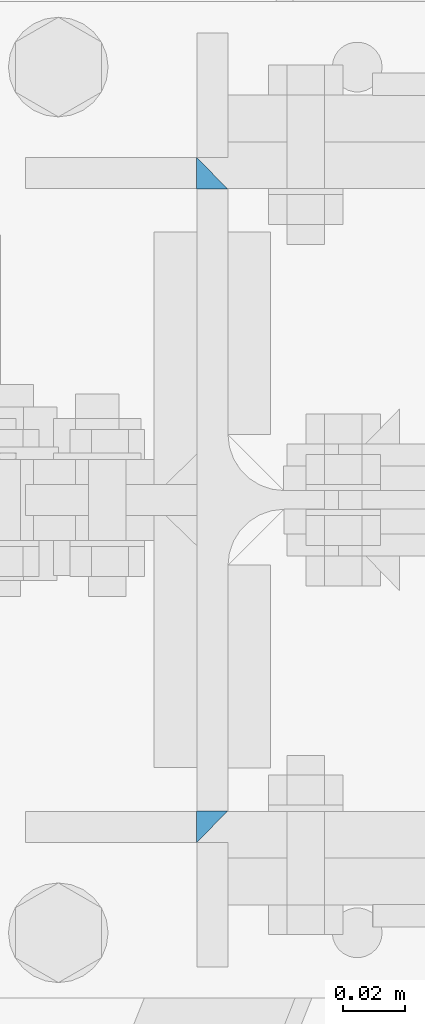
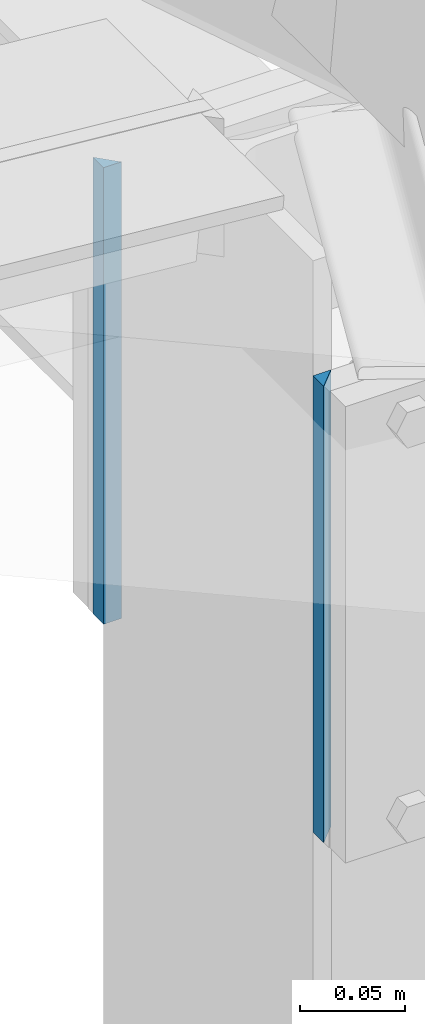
# One storey, part 39 of 251: 2 fasteners.
"""IFC4 building model written with IfcOpenShell, lengths in metres."""

import ifcopenshell
import ifcopenshell.guid

model = None  # the IFC model being written
_history = None  # IfcOwnerHistory: only IFC2X3 demands one
_inside = {}  # id of a spatial element -> (the spatial element, [elements in it])
_under = {}  # id of a project, library or spatial element -> (it, [spatial elements below it])
_declared = {}  # id of a project -> (the project, [libraries it declares])
_typed = {}  # id of a type object -> (the type object, [elements of that type])
_made_of = {}  # id of a material, layer set ... -> (it, [elements and type objects made of it])


def new_model(schema):
    """Start an empty IFC model of exactly this schema.

    Asked for "IFC4X3", IfcOpenShell would pick the latest addendum, in which some entities
    have other attributes; the version numbers below select the first issue.
    IFC2X3 requires an IfcOwnerHistory on every rooted entity: one is made here for all.
    """
    global model, _history
    if schema == "IFC4X3":
        model = ifcopenshell.file(schema_version=(4, 3, 0, 0))
    else:
        model = ifcopenshell.file(schema=schema)
    _inside.clear()
    _under.clear()
    _declared.clear()
    _typed.clear()
    _made_of.clear()
    _history = None
    if model.schema == "IFC2X3":
        org = make("IfcOrganization", Name="unknown")
        user = make(
            "IfcPersonAndOrganization",
            ThePerson=make("IfcPerson", FamilyName="unknown"),
            TheOrganization=org,
        )
        app = make(
            "IfcApplication",
            ApplicationDeveloper=org,
            Version="unknown",
            ApplicationFullName="unknown",
            ApplicationIdentifier="unknown",
        )
        _history = make(
            "IfcOwnerHistory",
            OwningUser=user,
            OwningApplication=app,
            ChangeAction="ADDED",
            CreationDate=0,
        )
    return model


def make(cls, **values):
    """One entity of the class cls with the attributes given. An attribute that is None is left unset."""
    return model.create_entity(
        cls, **{name: value for name, value in values.items() if value is not None}
    )


def rooted(cls, **values):
    """An entity with a GlobalId (a new one), such as an element, a storey or a relation."""
    return make(cls, GlobalId=ifcopenshell.guid.new(), OwnerHistory=_history, **values)


def si_unit(unit_type, name, prefix=None):
    """IfcSIUnit, for example si_unit("LENGTHUNIT", "METRE", prefix="MILLI")."""
    return make("IfcSIUnit", UnitType=unit_type, Prefix=prefix, Name=name)


def assignment(units):
    """IfcUnitAssignment: the units of a project."""
    return None if units is None else make("IfcUnitAssignment", Units=units)


def point(xyz):
    """IfcCartesianPoint."""
    return None if xyz is None else make("IfcCartesianPoint", Coordinates=xyz)


def direction(xyz):
    """IfcDirection."""
    return None if xyz is None else make("IfcDirection", DirectionRatios=xyz)


def frame(location, z_axis=None, x_axis=None):
    """IfcAxis2Placement3D, a coordinate frame: its origin and axes. An axis left out is left unset."""
    return make(
        "IfcAxis2Placement3D",
        Location=point(location),
        Axis=direction(z_axis),
        RefDirection=direction(x_axis),
    )


def origin_with_axes():
    """The frame at (0, 0, 0) with the z axis (0, 0, 1) and the x axis (1, 0, 0) written out."""
    return frame((0.0, 0.0, 0.0), z_axis=(0.0, 0.0, 1.0), x_axis=(1.0, 0.0, 0.0))


def place(relative_to, where):
    """IfcLocalPlacement: puts the frame where relative to a parent placement (None: the world)."""
    return make(
        "IfcLocalPlacement", PlacementRelTo=relative_to, RelativePlacement=where
    )


def context(
    kind, dimensions, precision=None, world=None, true_north=None, identifier=None
):
    """IfcGeometricRepresentationContext, for example the 3D "Model" context."""
    return make(
        "IfcGeometricRepresentationContext",
        ContextIdentifier=identifier,
        ContextType=kind,
        CoordinateSpaceDimension=dimensions,
        Precision=precision,
        WorldCoordinateSystem=world,
        TrueNorth=true_north,
    )


def project(units=None, contexts=None):
    """IfcProject with its units and contexts."""
    return rooted(
        "IfcProject",
        Name="project",
        RepresentationContexts=contexts,
        UnitsInContext=assignment(units),
    )


def spatial(cls, under=None, at=None, **own):
    """A site, building, storey or space (cls), placed at a placement, below another one or the project."""
    s = rooted(cls, ObjectPlacement=at, **own)
    if under is not None:
        _under.setdefault(under.id(), (under, []))[1].append(s)
    return s


def polyline(points):
    """IfcPolyline through the points."""
    return make("IfcPolyline", Points=[point(p) for p in points])


def outline(outer, holes=None, kind="AREA"):
    """IfcArbitraryClosedProfileDef: a profile drawn as a closed curve; with holes, ...WithVoids."""
    if holes is None:
        return make("IfcArbitraryClosedProfileDef", ProfileType=kind, OuterCurve=outer)
    return make(
        "IfcArbitraryProfileDefWithVoids",
        ProfileType=kind,
        OuterCurve=outer,
        InnerCurves=holes,
    )


def extrude(swept, where, along, depth):
    """IfcExtrudedAreaSolid: the profile swept, set in the frame where, extruded along a direction by depth."""
    return make(
        "IfcExtrudedAreaSolid",
        SweptArea=swept,
        Position=where,
        ExtrudedDirection=direction(along),
        Depth=depth,
    )


def shape(context_of_items, identifier, shape_type, items):
    """IfcShapeRepresentation: the items that make up one representation, for example the "Body"."""
    return make(
        "IfcShapeRepresentation",
        ContextOfItems=context_of_items,
        RepresentationIdentifier=identifier,
        RepresentationType=shape_type,
        Items=items,
    )


def made_of(thing, what):
    """Note that an element or type object is made of a material, layer set ...; save() writes the relation."""
    if what is not None:
        _made_of.setdefault(what.id(), (what, []))[1].append(thing)
    return thing


def type_object(cls, material=None, **own):
    """A type object (cls), such as IfcWallType, which elements share."""
    return made_of(rooted(cls, **own), material)


def element(
    cls,
    number,
    at=None,
    inside=None,
    cuts=None,
    type_object=None,
    material=None,
    context=None,
    identifier="Body",
    shape_type=None,
    held_by="IfcProductDefinitionShape",
    body=None,
    shapes=None,
    **own,
):
    """One element of the class cls, such as IfcWall. Its Tag is "e" and its number.

    at: its placement. inside: the storey or other place that contains it. cuts: it is an
    opening in that element (IfcRelVoidsElement). A single representation is given by context,
    identifier, shape_type and body (its items); several are given by shapes. held_by: the class
    of the entity that holds the representations. save() writes the other relations.
    """
    e = rooted(cls, Tag="e%d" % number, ObjectPlacement=at, **own)
    if body is not None:
        shapes = [shape(context, identifier, shape_type, body)]
    if shapes is not None:
        e.Representation = make(held_by, Representations=shapes)
    if inside is not None:
        _inside.setdefault(inside.id(), (inside, []))[1].append(e)
    if cuts is not None:
        rooted(
            "IfcRelVoidsElement", RelatingBuildingElement=cuts, RelatedOpeningElement=e
        )
    if type_object is not None:
        _typed.setdefault(type_object.id(), (type_object, []))[1].append(e)
    return made_of(e, material)


def aggregate(whole, parts):
    """IfcRelAggregates: a whole, such as a stair, and the parts it consists of."""
    return rooted("IfcRelAggregates", RelatingObject=whole, RelatedObjects=parts)


def save(model, path):
    """Write the relations noted so far, then the file.

    IfcRelAggregates (storeys below a building ...), IfcRelContainedInSpatialStructure (elements
    in a storey), IfcRelDefinesByType, IfcRelAssociatesMaterial and IfcRelDeclares: one each for
    every whole, place, type object, material and project.
    """
    for whole, parts in _under.values():
        aggregate(whole, parts)
    for where, things in _inside.values():
        rooted(
            "IfcRelContainedInSpatialStructure",
            RelatedElements=things,
            RelatingStructure=where,
        )
    for kind, things in _typed.values():
        rooted("IfcRelDefinesByType", RelatedObjects=things, RelatingType=kind)
    for what, things in _made_of.values():
        rooted("IfcRelAssociatesMaterial", RelatedObjects=things, RelatingMaterial=what)
    for by, libraries in _declared.values():
        rooted("IfcRelDeclares", RelatingContext=by, RelatedDefinitions=libraries)
    model.write(path)


model = new_model("IFC4")

# Units and contexts
model_context = context("Model", 3, precision=1e-05, world=origin_with_axes())
ifc_project = project(units=[si_unit("LENGTHUNIT", "METRE"), si_unit("AREAUNIT", "SQUARE_METRE"), si_unit("VOLUMEUNIT", "CUBIC_METRE"), si_unit("MASSUNIT", "GRAM", prefix="KILO"), si_unit("TIMEUNIT", "SECOND"), si_unit("PLANEANGLEUNIT", "RADIAN"), si_unit("SOLIDANGLEUNIT", "STERADIAN"), si_unit("THERMODYNAMICTEMPERATUREUNIT", "DEGREE_CELSIUS")], contexts=[model_context])

# Site, building, storey
placement_1 = place(None, origin_with_axes())
site = spatial("IfcSite", under=ifc_project, at=placement_1, Name="Italia", CompositionType="ELEMENT")
building = spatial("IfcBuilding", under=site, at=placement_1, Name="Deposito", CompositionType="ELEMENT")
storey = spatial("IfcBuildingStorey", under=building, at=placement_1, Name="Storey 0", CompositionType="ELEMENT", Elevation=0.0)

# Fasteners
fastener_type_1 = type_object("IfcFastenerType", Name="Collegamenti -064_-065 -065_-064 -065_-066 -066_-065 -066_-067 -067_-066 -067_-068 -068_-067", PredefinedType="WELD")
placement_2 = place(placement_1, origin_with_axes())
fastener_1_placement = place(placement_2, origin_with_axes())
element("IfcFastener", 1, at=fastener_1_placement, inside=storey, type_object=fastener_type_1, Name="Collegamenti -064_-065 -065_-064 -065_-066 -066_-065 -066_-067 -067_-066 -067_-068 -068_-067", context=model_context, shape_type="SweptSolid", body=[
    extrude(outline(polyline([(0.0, 0.0), (-0.0101738, 0.00986862), (0.0, 0.00986862), (0.0, 0.0)])), frame((19.9148, 9.90005, 5.66695), z_axis=(0.0, 0.0, 1.0), x_axis=(0.0, 1.0, 0.0)), (0.0, 0.0, 1.0), 0.2661),
])
fastener_type_2 = type_object("IfcFastenerType", Name="Collegamenti -064_-065 -065_-064 -065_-066 -066_-065 -066_-067 -067_-066 -067_-068 -068_-067", PredefinedType="WELD")
fastener_2_placement = place(placement_2, origin_with_axes())
element("IfcFastener", 2, at=fastener_2_placement, inside=storey, type_object=fastener_type_2, Name="Collegamenti -064_-065 -065_-064 -065_-066 -066_-065 -066_-067 -067_-066 -067_-068 -068_-067", context=model_context, shape_type="SweptSolid", body=[
    extrude(outline(polyline([(0.0, 0.0), (0.0101738, -0.00986862), (0.0, -0.00986862), (0.0, 0.0)])), frame((19.9148, 10.0999, 5.93305), z_axis=(0.0, 0.0, -1.0), x_axis=(0.0, 1.0, 0.0)), (0.0, 0.0, 1.0), 0.2661),
])

save(model, "model.ifc")
